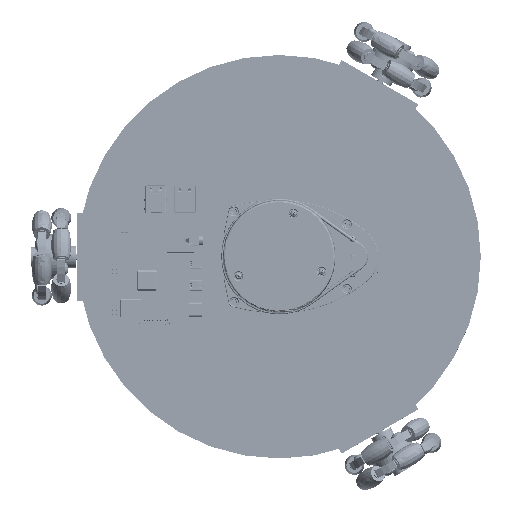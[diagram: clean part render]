
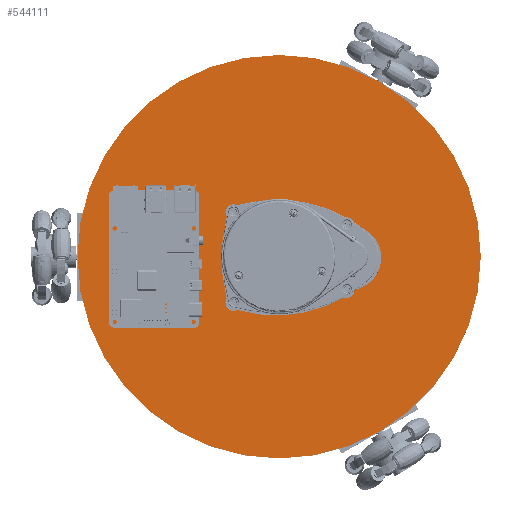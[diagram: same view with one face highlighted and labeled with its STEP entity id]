
A CAD part, top view. The second image highlights one B-rep face of the part: STEP entity #544111.
In plain terms, the highlighted planar face has unit normal (0, 0, 1).
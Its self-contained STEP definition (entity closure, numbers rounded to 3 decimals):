
#43286=PLANE('',#585465);
#70707=FACE_OUTER_BOUND('',#100832,.T.);
#100832=EDGE_LOOP('',(#511258));
#231098=CIRCLE('',#585463,125.);
#283041=VERTEX_POINT('',#988413);
#360695=EDGE_CURVE('',#283041,#283041,#231098,.T.);
#511258=ORIENTED_EDGE('',*,*,#360695,.T.);
#544111=ADVANCED_FACE('',(#70707),#43286,.T.);
#585463=AXIS2_PLACEMENT_3D('',#988414,#723951,#723952);
#585465=AXIS2_PLACEMENT_3D('',#988418,#723956,#723957);
#723951=DIRECTION('center_axis',(0.,0.,1.));
#723952=DIRECTION('ref_axis',(-1.,0.,0.));
#723956=DIRECTION('center_axis',(0.,0.,1.));
#723957=DIRECTION('ref_axis',(-1.,0.,0.));
#988413=CARTESIAN_POINT('',(248.05,0.,72.4));
#988414=CARTESIAN_POINT('Origin',(123.05,0.,72.4));
#988418=CARTESIAN_POINT('Origin',(123.05,0.,72.4));
